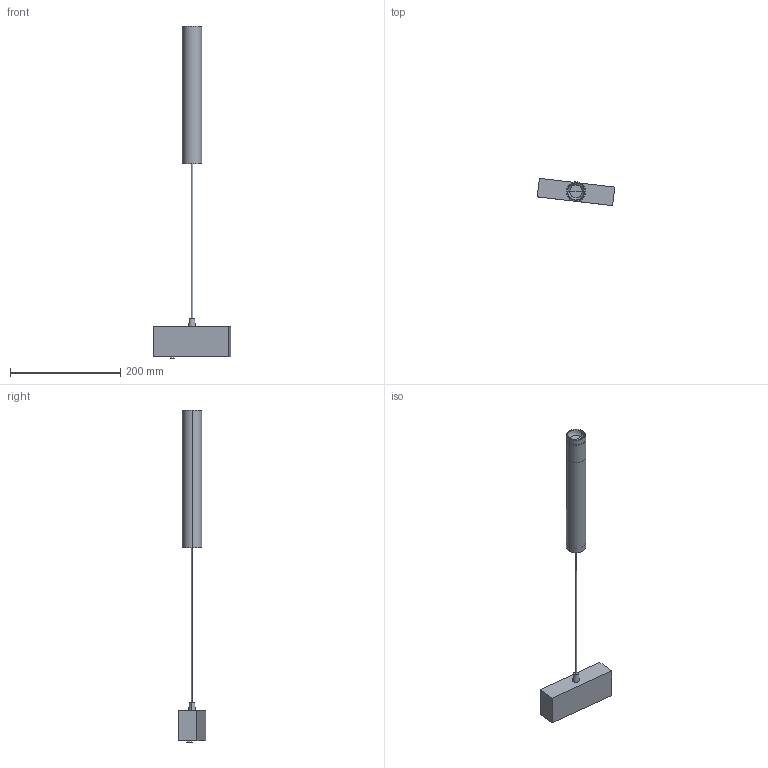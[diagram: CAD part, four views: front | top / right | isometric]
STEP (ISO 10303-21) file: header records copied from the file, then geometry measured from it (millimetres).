
FILE_DESCRIPTION(/* description */ (''),/* implementation_level */ '2;1');
FILE_NAME(/* name */ 'C:\Users\FrancoSartori\Documents\FARO\01_En Proceso\0000_2022\000_PRO\00_NESO\01_RFA_3D_Trabajo\TOP.stp',/* time_stamp */ '2022-07-19T14:19:55+02:00',/* author */ ('FrancoSartori'),/* organization */ (''),/* preprocessor_version */ 'ST-DEVELOPER v19',/* originating_system */ 'AutoCAD Mechanical',/* authorisation */ '');
FILE_SCHEMA (('AUTOMOTIVE_DESIGN { 1 0 10303 214 3 1 1 }'));
Length unit declared in the file: millimetre
Products named in the file (3): Product; TOP_BASE_ - SP-468015-Export; TOP_LAMP_ - LAMP-467143-Export
Assembly tree (2 placements, depth 2):
  Product
    TOP_BASE_ - SP-468015-Export
    TOP_LAMP_ - LAMP-467143-Export
Bounding box: 140.48 x 49.39 x 602 mm (x, y, z)
Volume: 459055.5 mm3; surface area: 76429.5 mm2
Topology: 12 solids, 12 shells, 112 faces, 220 edges, 136 vertices
Faces by surface type: plane 64, cylinder 44, cone 2, bspline 2
Entity records: 2963 total; most frequent: DIRECTION 544, CARTESIAN_POINT 505, ORIENTED_EDGE 440, EDGE_CURVE 220, AXIS2_PLACEMENT_3D 211, VERTEX_POINT 136, LINE 122, VECTOR 122
